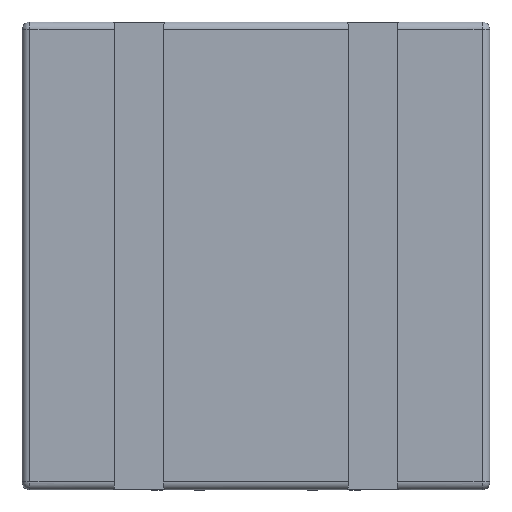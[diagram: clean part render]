
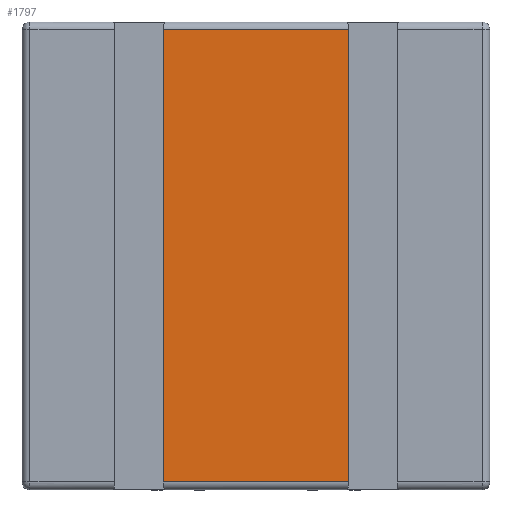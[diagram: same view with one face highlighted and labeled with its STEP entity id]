
A CAD part, top view. The second image highlights one B-rep face of the part: STEP entity #1797.
In plain terms, the highlighted planar face has unit normal (0, 0, 1).
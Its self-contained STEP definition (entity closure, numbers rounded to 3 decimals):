
#35=PLANE('',#1924);
#108=LINE('',#2566,#332);
#112=LINE('',#2576,#336);
#180=LINE('',#2738,#404);
#181=LINE('',#2740,#405);
#332=VECTOR('',#2061,10.);
#336=VECTOR('',#2069,10.);
#404=VECTOR('',#2197,10.);
#405=VECTOR('',#2200,10.);
#592=FACE_OUTER_BOUND('',#693,.T.);
#693=EDGE_LOOP('',(#1383,#1384,#1385,#1386));
#815=VERTEX_POINT('',#2559);
#818=VERTEX_POINT('',#2564);
#822=VERTEX_POINT('',#2574);
#886=VERTEX_POINT('',#2736);
#991=EDGE_CURVE('',#818,#815,#108,.T.);
#996=EDGE_CURVE('',#818,#822,#112,.T.);
#1077=EDGE_CURVE('',#886,#822,#180,.T.);
#1078=EDGE_CURVE('',#815,#886,#181,.T.);
#1383=ORIENTED_EDGE('',*,*,#991,.F.);
#1384=ORIENTED_EDGE('',*,*,#996,.T.);
#1385=ORIENTED_EDGE('',*,*,#1077,.F.);
#1386=ORIENTED_EDGE('',*,*,#1078,.F.);
#1797=ADVANCED_FACE('',(#592),#35,.T.);
#1924=AXIS2_PLACEMENT_3D('',#2739,#2198,#2199);
#2061=DIRECTION('',(1.,0.,0.));
#2069=DIRECTION('',(0.,-1.,0.));
#2197=DIRECTION('',(-1.,0.,0.));
#2198=DIRECTION('center_axis',(0.,0.,
1.));
#2199=DIRECTION('ref_axis',(-1.,0.,0.));
#2200=DIRECTION('',(0.,-1.,0.));
#2559=CARTESIAN_POINT('',(10.95,9.5,5.6));
#2564=CARTESIAN_POINT('',(-0.95,9.5,5.6));
#2566=CARTESIAN_POINT('',(-1.013,9.5,5.6));
#2574=CARTESIAN_POINT('',(-0.95,-19.5,5.6));
#2576=CARTESIAN_POINT('',(-0.95,10.,5.6));
#2736=CARTESIAN_POINT('',(10.95,-19.5,5.6));
#2738=CARTESIAN_POINT('',(-1.013,-19.5,5.6));
#2739=CARTESIAN_POINT('Origin',(5.,10.,5.6));
#2740=CARTESIAN_POINT('',(10.95,10.,5.6));
